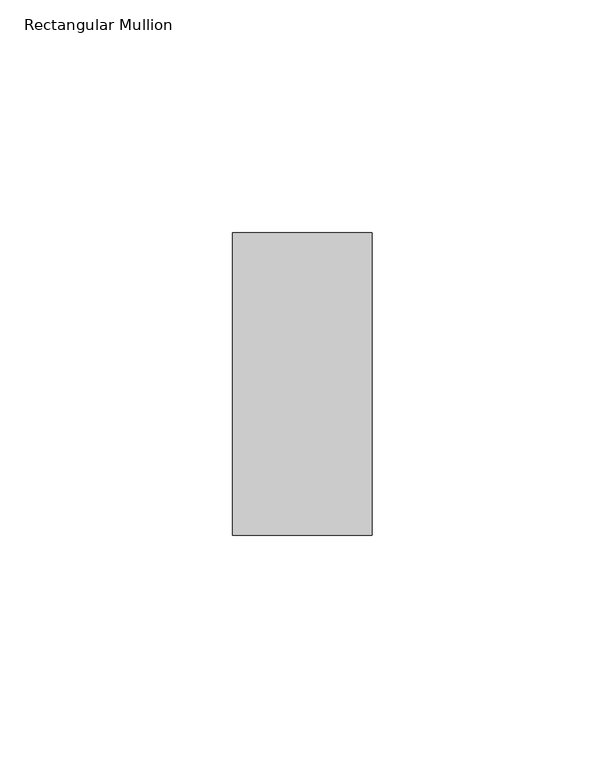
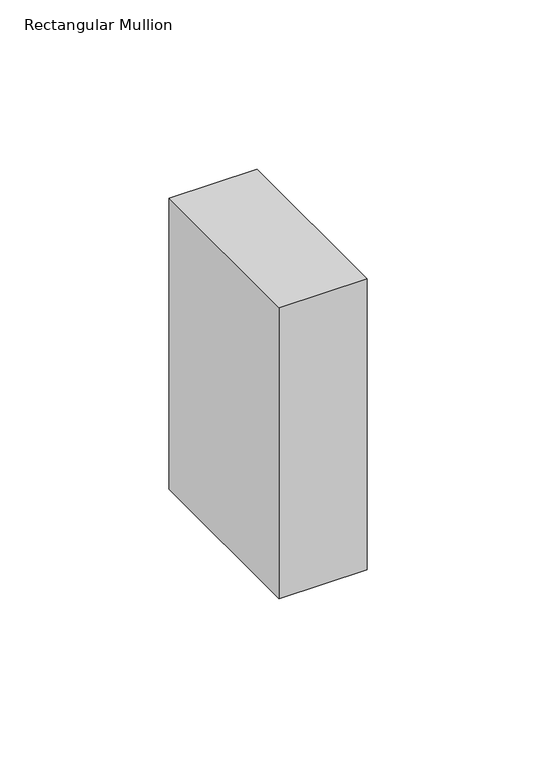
"""IFC4 building model written with IfcOpenShell, lengths in millimetres: member geometry, Rectangular Mullion : Batten_Timber_Modinex_Austratus_Grid_Fascia_30x65_AlaskanYellowCedar."""

from ifc_helpers import new_model, si_unit, frame, origin, place, context, project, spatial, polyline, outline, extrude, source, transform, mapped, element, save


def rectangular_mullion_e9e2e2fa(model_context):
    return source(origin(), model_context, "Body", "SweptSolid", [
        extrude(outline(polyline([(-15.0, 65.0), (15.0, 65.0), (15.0, 0.0), (-15.0, 0.0), (-15.0, 65.0)])), frame((0.0, 0.0, -105.0000003), z_axis=(0.0, 0.0, 1.0), x_axis=(1.0, 0.0, 0.0)), (0.0, 0.0, 1.0), 105.0000003),
    ])


if __name__ == "__main__":
    model = new_model("IFC4")
    model_context = context("Model", 3, world=origin())
    ifc_project = project(units=[si_unit("LENGTHUNIT", "METRE", prefix="MILLI")], contexts=[model_context])
    site = spatial("IfcSite", under=ifc_project)
    building = spatial("IfcBuilding", under=site)
    placement = place(None, origin())
    rectangular_mullion_shape = rectangular_mullion_e9e2e2fa(model_context)
    element("IfcMember", 1, ObjectType="Rectangular Mullion : Batten_Timber_Modinex_Austratus_Grid_Fascia_30x65_AlaskanYellowCedar", at=placement, inside=building, context=model_context, shape_type="MappedRepresentation", body=[
        mapped(rectangular_mullion_shape, transform((0.0, 0.0, 0.0), x_axis=(1.0, 0.0, 0.0), y_axis=(0.0, 1.0, 0.0), z_axis=(0.0, 0.0, 1.0))),
    ])
    save(model, "model.ifc")
